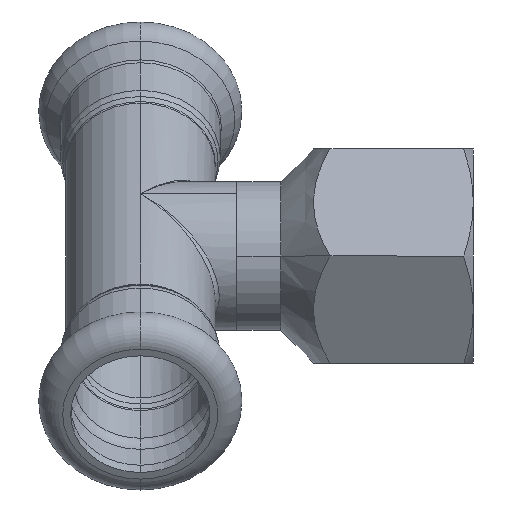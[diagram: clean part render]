
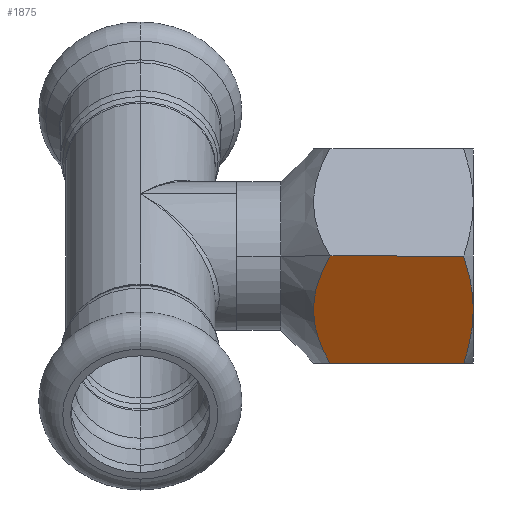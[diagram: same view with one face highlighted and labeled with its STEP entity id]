
A CAD part, left-side view. The second image highlights one B-rep face of the part: STEP entity #1875.
In plain terms, the highlighted planar face has unit normal (-0.866, 0, -0.5).
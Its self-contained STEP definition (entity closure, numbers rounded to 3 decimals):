
#88 = B_SPLINE_CURVE_WITH_KNOTS ( 'NONE', 3,
 ( #1241, #2010, #3103, #2001, #1202, #187 ),
 .UNSPECIFIED., .F., .F.,
 ( 4, 2, 4 ),
 ( 0., 0.004, 0.007 ),
 .UNSPECIFIED. ) ;
#127 = CARTESIAN_POINT ( 'NONE',  ( -13.592, 16.908, -0.957 ) ) ;
#165 = CARTESIAN_POINT ( 'NONE',  ( -14.145, 16.355, 0. ) ) ;
#187 = CARTESIAN_POINT ( 'NONE',  ( -10.609, 0., -6.125 ) ) ;
#245 = VERTEX_POINT ( 'NONE', #2622 ) ;
#358 = ORIENTED_EDGE ( 'NONE', *, *, #2926, .T. ) ;
#378 = CARTESIAN_POINT ( 'NONE',  ( -7.073, 1.094, -12.25 ) ) ;
#381 = CARTESIAN_POINT ( 'NONE',  ( -8.201, 17.387, -10.296 ) ) ;
#443 = CARTESIAN_POINT ( 'NONE',  ( -9.115, 0.2, -8.713 ) ) ;
#484 = EDGE_CURVE ( 'NONE', #1182, #245, #655, .T. ) ;
#543 = CARTESIAN_POINT ( 'NONE',  ( -10.609, 0., -6.125 ) ) ;
#655 = B_SPLINE_CURVE_WITH_KNOTS ( 'NONE', 3,
 ( #165, #127, #2816, #2521, #1459, #2555, #1197, #3290, #1978, #381, #2248, #2800 ),
 .UNSPECIFIED., .F., .F.,
 ( 4, 2, 2, 2, 2, 4 ),
 ( 0., 0.004, 0.005, 0.007, 0.011, 0.015 ),
 .UNSPECIFIED. ) ;
#707 = CARTESIAN_POINT ( 'NONE',  ( -9.411, 0.126, -8.2 ) ) ;
#716 = CARTESIAN_POINT ( 'NONE',  ( -7.073, 1.094, -12.25 ) ) ;
#722 = VERTEX_POINT ( 'NONE', #543 ) ;
#761 = VECTOR ( 'NONE', #894, 1000. ) ;
#802 = CARTESIAN_POINT ( 'NONE',  ( -7.073, 27., -12.25 ) ) ;
#894 = DIRECTION ( 'NONE',  ( 0., -1., 0. ) ) ;
#897 = ORIENTED_EDGE ( 'NONE', *, *, #2063, .F. ) ;
#941 = CARTESIAN_POINT ( 'NONE',  ( -7.073, 27., -12.25 ) ) ;
#962 = CARTESIAN_POINT ( 'NONE',  ( -10.309, 0., -6.645 ) ) ;
#988 = FACE_OUTER_BOUND ( 'NONE', #1657, .T. ) ;
#1000 = AXIS2_PLACEMENT_3D ( 'NONE', #802, #1659, #1949 ) ;
#1062 = CARTESIAN_POINT ( 'NONE',  ( -14.145, 27., 0. ) ) ;
#1157 = LINE ( 'NONE', #1062, #3041 ) ;
#1158 = EDGE_CURVE ( 'NONE', #722, #2267, #2277, .T. ) ;
#1182 = VERTEX_POINT ( 'NONE', #1507 ) ;
#1197 = CARTESIAN_POINT ( 'NONE',  ( -10.931, 18.249, -5.568 ) ) ;
#1202 = CARTESIAN_POINT ( 'NONE',  ( -11.211, 0., -5.081 ) ) ;
#1238 = CARTESIAN_POINT ( 'NONE',  ( -8.231, 0.486, -10.243 ) ) ;
#1241 = CARTESIAN_POINT ( 'NONE',  ( -14.145, 1.094, 0. ) ) ;
#1459 = CARTESIAN_POINT ( 'NONE',  ( -11.852, 18.015, -3.972 ) ) ;
#1469 = LINE ( 'NONE', #941, #761 ) ;
#1507 = CARTESIAN_POINT ( 'NONE',  ( -14.145, 16.355, 0. ) ) ;
#1517 = CARTESIAN_POINT ( 'NONE',  ( -10.609, 0., -6.125 ) ) ;
#1599 = PLANE ( 'NONE',  #1000 ) ;
#1657 = EDGE_LOOP ( 'NONE', ( #1906, #897, #2461, #358, #3040 ) ) ;
#1659 = DIRECTION ( 'NONE',  ( 0.866, 0., 0.5 ) ) ;
#1875 = ADVANCED_FACE ( 'NONE', ( #988 ), #1599, .F. ) ;
#1906 = ORIENTED_EDGE ( 'NONE', *, *, #2467, .F. ) ;
#1949 = DIRECTION ( 'NONE',  ( 0.5, 0., -0.866 ) ) ;
#1978 = CARTESIAN_POINT ( 'NONE',  ( -9.398, 18.066, -8.223 ) ) ;
#1982 = VERTEX_POINT ( 'NONE', #3334 ) ;
#2001 = CARTESIAN_POINT ( 'NONE',  ( -11.806, 0.104, -4.051 ) ) ;
#2010 = CARTESIAN_POINT ( 'NONE',  ( -13.567, 0.76, -1.002 ) ) ;
#2063 = EDGE_CURVE ( 'NONE', #1182, #1982, #1157, .T. ) ;
#2248 = CARTESIAN_POINT ( 'NONE',  ( -7.628, 16.911, -11.287 ) ) ;
#2267 = VERTEX_POINT ( 'NONE', #378 ) ;
#2277 = B_SPLINE_CURVE_WITH_KNOTS ( 'NONE', 3,
 ( #1517, #962, #2573, #707, #443, #1238, #3078, #716 ),
 .UNSPECIFIED., .F., .F.,
 ( 4, 2, 2, 4 ),
 ( 0.007, 0.009, 0.011, 0.014 ),
 .UNSPECIFIED. ) ;
#2461 = ORIENTED_EDGE ( 'NONE', *, *, #484, .T. ) ;
#2467 = EDGE_CURVE ( 'NONE', #1982, #722, #88, .T. ) ;
#2521 = CARTESIAN_POINT ( 'NONE',  ( -12.15, 17.881, -3.456 ) ) ;
#2555 = CARTESIAN_POINT ( 'NONE',  ( -11.244, 18.199, -5.025 ) ) ;
#2573 = CARTESIAN_POINT ( 'NONE',  ( -10.007, 0.026, -7.167 ) ) ;
#2622 = CARTESIAN_POINT ( 'NONE',  ( -7.073, 16.355, -12.25 ) ) ;
#2637 = DIRECTION ( 'NONE',  ( 0., -1., 0. ) ) ;
#2800 = CARTESIAN_POINT ( 'NONE',  ( -7.073, 16.355, -12.25 ) ) ;
#2816 = CARTESIAN_POINT ( 'NONE',  ( -13.027, 17.377, -1.936 ) ) ;
#2926 = EDGE_CURVE ( 'NONE', #245, #2267, #1469, .T. ) ;
#3040 = ORIENTED_EDGE ( 'NONE', *, *, #1158, .F. ) ;
#3041 = VECTOR ( 'NONE', #2637, 1000. ) ;
#3078 = CARTESIAN_POINT ( 'NONE',  ( -7.65, 0.761, -11.251 ) ) ;
#3103 = CARTESIAN_POINT ( 'NONE',  ( -12.984, 0.485, -2.011 ) ) ;
#3290 = CARTESIAN_POINT ( 'NONE',  ( -10.004, 18.253, -7.172 ) ) ;
#3334 = CARTESIAN_POINT ( 'NONE',  ( -14.145, 1.094, 0. ) ) ;
